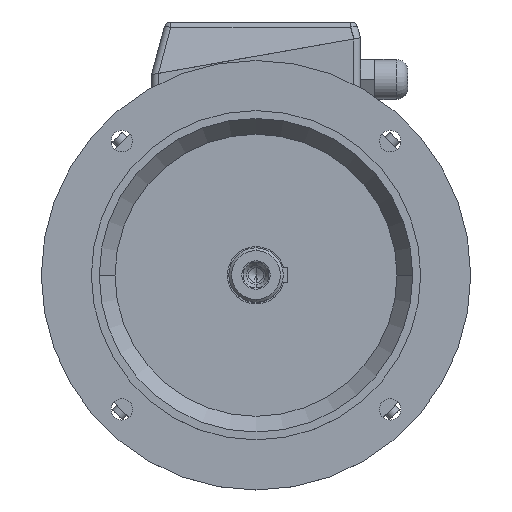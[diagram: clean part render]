
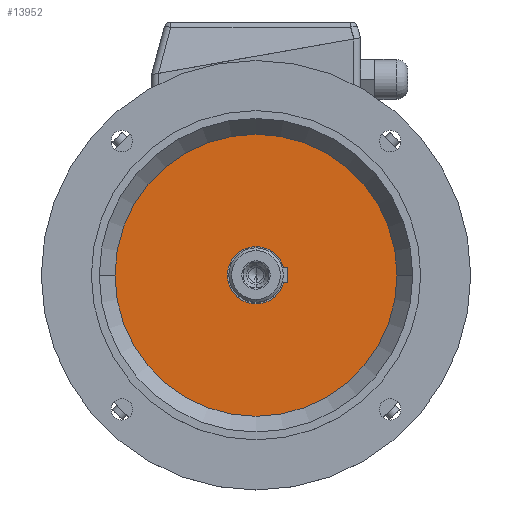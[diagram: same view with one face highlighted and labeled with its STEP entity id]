
A CAD part, top view. The second image highlights one B-rep face of the part: STEP entity #13952.
In plain terms, the highlighted planar face has unit normal (0, 0, 1).
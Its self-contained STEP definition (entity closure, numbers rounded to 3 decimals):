
#16849 = CARTESIAN_POINT ( 'NONE',  ( -98.5, 0., 47. ) ) ;
#17030 = CARTESIAN_POINT ( 'NONE',  ( 98.5, 0., 47. ) ) ;
#17269 = CIRCLE ( 'NONE', #17270, 98.5 ) ;
#17270 = AXIS2_PLACEMENT_3D ( 'NONE', #17271, #17272, #17273 ) ;
#17271 = CARTESIAN_POINT ( 'NONE',  ( 0., 0., 47. ) ) ;
#17272 = DIRECTION ( 'NONE',  ( 0., 0., -1. ) ) ;
#17273 = DIRECTION ( 'NONE',  ( -1., 0., 0. ) ) ;
#2934 = VERTEX_POINT ( 'NONE', #16849 ) ;
#3198 = VERTEX_POINT ( 'NONE', #17030 ) ;
#3461 = EDGE_CURVE ( 'NONE', #3198, #2934, #17269, .T. ) ;
#7295 = FACE_OUTER_BOUND ( 'NONE', #13881, .T. ) ;
#7296 = PLANE ( 'NONE',  #7297 ) ;
#7297 = AXIS2_PLACEMENT_3D ( 'NONE', #7298, #7299, #7300 ) ;
#7298 = CARTESIAN_POINT ( 'NONE',  ( 0., 98.5, 47. ) ) ;
#7299 = DIRECTION ( 'NONE',  ( 0., 0., 1. ) ) ;
#7300 = DIRECTION ( 'NONE',  ( 1., 0., 0. ) ) ;
#8735 = CIRCLE ( 'NONE', #8744, 98.5 ) ;
#8744 = AXIS2_PLACEMENT_3D ( 'NONE', #8745, #8746, #8747 ) ;
#8745 = CARTESIAN_POINT ( 'NONE',  ( 0., 0., 47. ) ) ;
#8746 = DIRECTION ( 'NONE',  ( 0., 0., -1. ) ) ;
#8747 = DIRECTION ( 'NONE',  ( -1., 0., 0. ) ) ;
#13559 = ORIENTED_EDGE ( 'NONE', *, *, #14446, .F. ) ;
#13720 = ORIENTED_EDGE ( 'NONE', *, *, #3461, .F. ) ;
#13881 = EDGE_LOOP ( 'NONE', ( #13720, #13559 ) ) ;
#13952 = ADVANCED_FACE ( 'NONE', ( #7295 ), #7296, .T. ) ;
#14446 = EDGE_CURVE ( 'NONE', #2934, #3198, #8735, .T. ) ;
